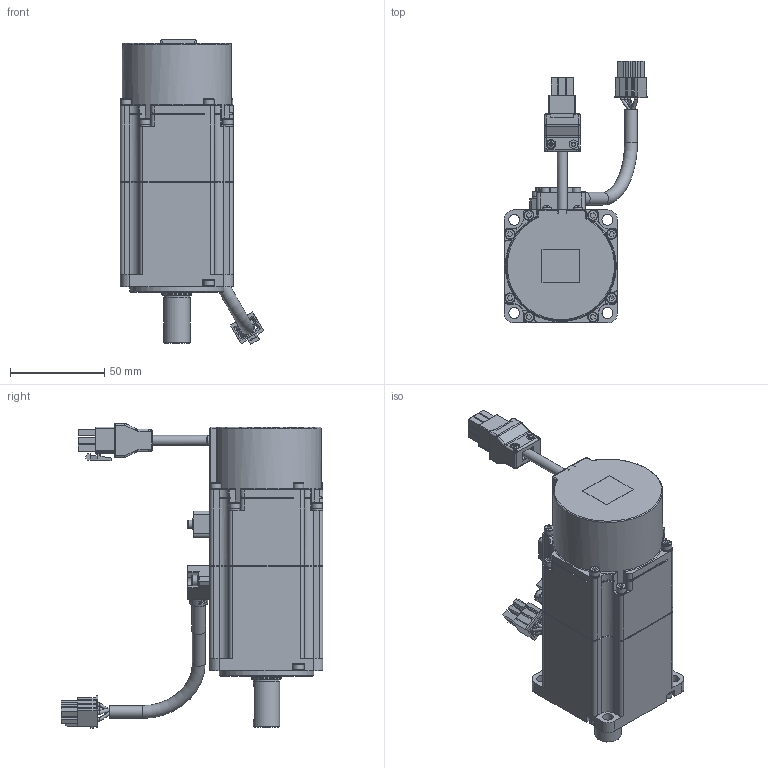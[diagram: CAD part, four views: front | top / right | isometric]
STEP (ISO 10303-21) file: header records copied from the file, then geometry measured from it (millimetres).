
FILE_DESCRIPTION(/* description */ (''),/* implementation_level */ '2;1');
FILE_NAME(/* name */ 'C:\Users\11755\Desktop\SME(磁編)\SME(磁編)_馬達外型圖(客戶版)\3D-STP\SME-L020B(磁編).stp',/* time_stamp */ '2021-08-02T09:14:02+08:00',/* author */ ('11755'),/* organization */ (''),/* preprocessor_version */ 'ST-DEVELOPER v17',/* originating_system */ 'Autodesk Inventor 2019',/* authorisation */ '');
FILE_SCHEMA (('AUTOMOTIVE_DESIGN { 1 0 10303 214 3 1 1 }'));
Products named in the file (1): SME-L020B(磁編)_20201202_Shrinkwrap_1
Bounding box: 76.12 x 139.11 x 161.97 mm (x, y, z)
Volume: 422494.2 mm3; surface area: 57184.6 mm2
Topology: 1 solids, 5 shells, 1566 faces, 4434 edges, 2920 vertices
Faces by surface type: plane 964, cylinder 330, cone 87, torus 76, bspline 75, sphere 34
Full cylindrical faces by diameter (mm): 1.2 x4, 1.5 x2, 1.6 x2, 2 x4, 2.459 x2, 2.6 x9, 3 x2, 3.2 x2, 3.3 x1, 4.2 x2, 4.5 x2, 5 x2, 5.3 x1, 5.32 x14, 5.5 x14, 5.8 x4, 6 x2, 6.1 x2, 6.8 x2, 7.2 x1, 9.6 x1, 13.8 x1, 14 x1, 15.8 x2, 16 x1, 17.5 x1, 30 x1, 35 x1, 43 x1, 50 x1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
Entity records: 59755 total; most frequent: CARTESIAN_POINT 17741, ORIENTED_EDGE 8780, DIRECTION 8121, EDGE_CURVE 4390, VERTEX_POINT 2916, AXIS2_PLACEMENT_3D 2735, LINE 2651, VECTOR 2651
